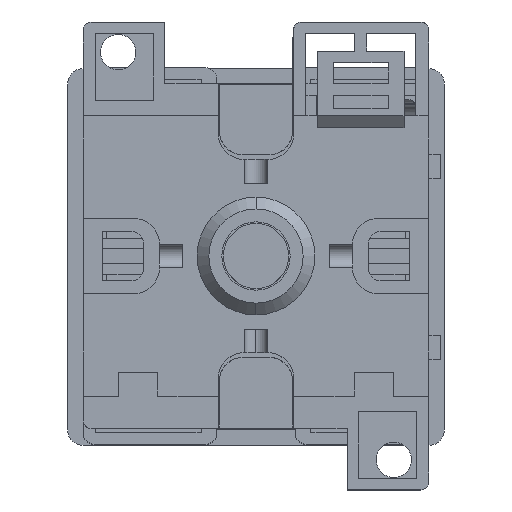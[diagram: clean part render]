
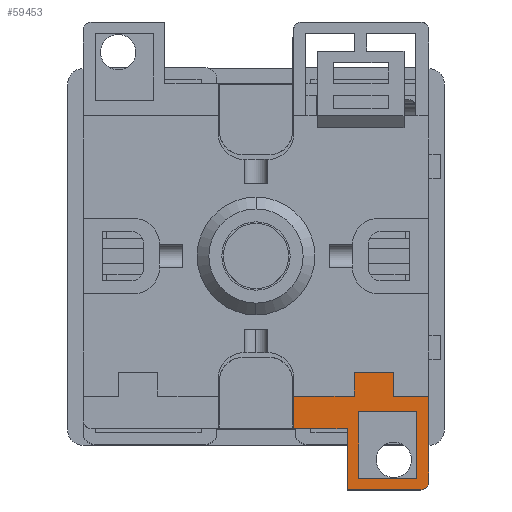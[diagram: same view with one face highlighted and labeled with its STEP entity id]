
A CAD part, top view. The second image highlights one B-rep face of the part: STEP entity #59453.
In plain terms, the highlighted planar face has unit normal (0, 0, 1).
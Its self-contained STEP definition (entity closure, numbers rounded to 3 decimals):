
#806 = ORIENTED_EDGE ( 'NONE', *, *, #135892, .F. ) ;
#2220 = VERTEX_POINT ( 'NONE', #165774 ) ;
#4497 = VERTEX_POINT ( 'NONE', #30205 ) ;
#4670 = CARTESIAN_POINT ( 'NONE',  ( -51.715, -22.961, -144.082 ) ) ;
#4997 = CARTESIAN_POINT ( 'NONE',  ( 6.361, -5.111, -144.082 ) ) ;
#5806 = EDGE_CURVE ( 'NONE', #58904, #31021, #43689, .T. ) ;
#7715 = ORIENTED_EDGE ( 'NONE', *, *, #78977, .F. ) ;
#8108 = DIRECTION ( 'NONE',  ( 0., -1., 0. ) ) ;
#8287 = DIRECTION ( 'NONE',  ( 1., 0., 0. ) ) ;
#11564 = EDGE_CURVE ( 'NONE', #75841, #72464, #12295, .T. ) ;
#12295 = LINE ( 'NONE', #21018, #115640 ) ;
#12948 = CARTESIAN_POINT ( 'NONE',  ( 17.961, -27.111, -144.082 ) ) ;
#13508 = PLANE ( 'NONE',  #119540 ) ;
#14140 = VECTOR ( 'NONE', #150903, 1000. ) ;
#18361 = VERTEX_POINT ( 'NONE', #73487 ) ;
#18905 = DIRECTION ( 'NONE',  ( 1., 0., 0. ) ) ;
#21018 = CARTESIAN_POINT ( 'NONE',  ( 19.461, -33.411, -144.082 ) ) ;
#21280 = CARTESIAN_POINT ( 'NONE',  ( 18.861, -19.961, -144.082 ) ) ;
#21626 = EDGE_CURVE ( 'NONE', #4497, #75841, #164432, .T. ) ;
#25039 = DIRECTION ( 'NONE',  ( 0., -1., 0. ) ) ;
#25403 = DIRECTION ( 'NONE',  ( 1., 0., 0. ) ) ;
#25995 = CARTESIAN_POINT ( 'NONE',  ( 23.861, -19.961, -144.082 ) ) ;
#26577 = VECTOR ( 'NONE', #131591, 1000. ) ;
#29276 = DIRECTION ( 'NONE',  ( 1., 0., 0. ) ) ;
#29708 = ORIENTED_EDGE ( 'NONE', *, *, #58573, .T. ) ;
#30205 = CARTESIAN_POINT ( 'NONE',  ( 26.861, -24.961, -144.082 ) ) ;
#30358 = CARTESIAN_POINT ( 'NONE',  ( 27.361, -34.911, -144.082 ) ) ;
#30824 = ORIENTED_EDGE ( 'NONE', *, *, #97776, .F. ) ;
#31021 = VERTEX_POINT ( 'NONE', #60147 ) ;
#32171 = VECTOR ( 'NONE', #90088, 1000. ) ;
#36940 = EDGE_CURVE ( 'NONE', #140231, #50520, #100815, .T. ) ;
#38028 = VERTEX_POINT ( 'NONE', #70919 ) ;
#38032 = LINE ( 'NONE', #161915, #128722 ) ;
#38182 = CIRCLE ( 'NONE', #62280, 1. ) ;
#38921 = LINE ( 'NONE', #129041, #55507 ) ;
#43413 = ORIENTED_EDGE ( 'NONE', *, *, #36940, .F. ) ;
#43689 = LINE ( 'NONE', #89843, #76788 ) ;
#44537 = DIRECTION ( 'NONE',  ( 0., 1., 0. ) ) ;
#46534 = DIRECTION ( 'NONE',  ( 0., -1., 0. ) ) ;
#48090 = LINE ( 'NONE', #4670, #114018 ) ;
#50131 = EDGE_CURVE ( 'NONE', #18361, #143493, #103141, .T. ) ;
#50520 = VERTEX_POINT ( 'NONE', #114619 ) ;
#52160 = ORIENTED_EDGE ( 'NONE', *, *, #158010, .T. ) ;
#54056 = VECTOR ( 'NONE', #154682, 1000. ) ;
#54259 = DIRECTION ( 'NONE',  ( 1., 0., 0. ) ) ;
#55507 = VECTOR ( 'NONE', #25403, 1000. ) ;
#55510 = VERTEX_POINT ( 'NONE', #12948 ) ;
#57863 = DIRECTION ( 'NONE',  ( 1., 0., 0. ) ) ;
#58573 = EDGE_CURVE ( 'NONE', #18361, #103340, #63022, .T. ) ;
#58887 = VECTOR ( 'NONE', #8108, 1000. ) ;
#58904 = VERTEX_POINT ( 'NONE', #30358 ) ;
#59453 = ADVANCED_FACE ( 'NONE', ( #158143, #125106 ), #13508, .F. ) ;
#60147 = CARTESIAN_POINT ( 'NONE',  ( 17.961, -34.911, -144.082 ) ) ;
#60315 = CARTESIAN_POINT ( 'NONE',  ( 28.361, -22.961, -144.082 ) ) ;
#60319 = CARTESIAN_POINT ( 'NONE',  ( 28.361, -34.911, -144.082 ) ) ;
#60422 = VERTEX_POINT ( 'NONE', #66580 ) ;
#62280 = AXIS2_PLACEMENT_3D ( 'NONE', #140085, #87208, #8287 ) ;
#63022 = LINE ( 'NONE', #21280, #58887 ) ;
#64728 = CARTESIAN_POINT ( 'NONE',  ( -15.639, -27.111, -144.082 ) ) ;
#66580 = CARTESIAN_POINT ( 'NONE',  ( 26.861, -33.411, -144.082 ) ) ;
#66588 = ORIENTED_EDGE ( 'NONE', *, *, #21626, .F. ) ;
#66959 = VECTOR ( 'NONE', #29276, 1000. ) ;
#67251 = LINE ( 'NONE', #64728, #32171 ) ;
#68000 = LINE ( 'NONE', #105266, #26577 ) ;
#68840 = EDGE_CURVE ( 'NONE', #38028, #2220, #146776, .T. ) ;
#68970 = LINE ( 'NONE', #119698, #66959 ) ;
#70919 = CARTESIAN_POINT ( 'NONE',  ( 11.161, -22.961, -144.082 ) ) ;
#72464 = VERTEX_POINT ( 'NONE', #128220 ) ;
#73487 = CARTESIAN_POINT ( 'NONE',  ( 18.861, -19.961, -144.082 ) ) ;
#74384 = DIRECTION ( 'NONE',  ( -1., 0., 0. ) ) ;
#75841 = VERTEX_POINT ( 'NONE', #159463 ) ;
#76788 = VECTOR ( 'NONE', #74384, 1000. ) ;
#78977 = EDGE_CURVE ( 'NONE', #38028, #103340, #38921, .T. ) ;
#80004 = EDGE_LOOP ( 'NONE', ( #160879, #52160, #43413, #160306, #806, #141297, #29708, #7715, #81289, #123568, #145978 ) ) ;
#81289 = ORIENTED_EDGE ( 'NONE', *, *, #68840, .T. ) ;
#84941 = ORIENTED_EDGE ( 'NONE', *, *, #11564, .F. ) ;
#87208 = DIRECTION ( 'NONE',  ( 0., 0., 1. ) ) ;
#89843 = CARTESIAN_POINT ( 'NONE',  ( 28.361, -34.911, -144.082 ) ) ;
#90088 = DIRECTION ( 'NONE',  ( -1., 0., 0. ) ) ;
#92510 = EDGE_CURVE ( 'NONE', #31021, #55510, #94699, .T. ) ;
#94699 = LINE ( 'NONE', #122687, #14140 ) ;
#96041 = DIRECTION ( 'NONE',  ( -1., 0., 0. ) ) ;
#97688 = DIRECTION ( 'NONE',  ( 0., 0., -1. ) ) ;
#97776 = EDGE_CURVE ( 'NONE', #60422, #4497, #38032, .T. ) ;
#100815 = LINE ( 'NONE', #60319, #119203 ) ;
#103141 = LINE ( 'NONE', #25995, #121593 ) ;
#103340 = VERTEX_POINT ( 'NONE', #131782 ) ;
#105266 = CARTESIAN_POINT ( 'NONE',  ( 23.861, -19.961, -144.082 ) ) ;
#106954 = VECTOR ( 'NONE', #96041, 1000. ) ;
#114018 = VECTOR ( 'NONE', #18905, 1000. ) ;
#114619 = CARTESIAN_POINT ( 'NONE',  ( 28.361, -33.911, -144.082 ) ) ;
#115640 = VECTOR ( 'NONE', #25039, 1000. ) ;
#116712 = CARTESIAN_POINT ( 'NONE',  ( 23.861, -22.961, -144.082 ) ) ;
#118128 = CARTESIAN_POINT ( 'NONE',  ( 23.861, -19.961, -144.082 ) ) ;
#118301 = EDGE_CURVE ( 'NONE', #55510, #2220, #67251, .T. ) ;
#119203 = VECTOR ( 'NONE', #46534, 1000. ) ;
#119540 = AXIS2_PLACEMENT_3D ( 'NONE', #4997, #97688, #57863 ) ;
#119698 = CARTESIAN_POINT ( 'NONE',  ( 26.861, -33.411, -144.082 ) ) ;
#121593 = VECTOR ( 'NONE', #54259, 1000. ) ;
#122687 = CARTESIAN_POINT ( 'NONE',  ( 17.961, -27.111, -144.082 ) ) ;
#123560 = EDGE_LOOP ( 'NONE', ( #66588, #30824, #137202, #84941 ) ) ;
#123568 = ORIENTED_EDGE ( 'NONE', *, *, #118301, .F. ) ;
#125083 = EDGE_CURVE ( 'NONE', #138722, #140231, #48090, .T. ) ;
#125106 = FACE_OUTER_BOUND ( 'NONE', #80004, .T. ) ;
#128174 = CARTESIAN_POINT ( 'NONE',  ( 11.161, 24.689, -144.082 ) ) ;
#128220 = CARTESIAN_POINT ( 'NONE',  ( 19.461, -33.411, -144.082 ) ) ;
#128722 = VECTOR ( 'NONE', #44537, 1000. ) ;
#129041 = CARTESIAN_POINT ( 'NONE',  ( -51.715, -22.961, -144.082 ) ) ;
#131591 = DIRECTION ( 'NONE',  ( 0., -1., 0. ) ) ;
#131782 = CARTESIAN_POINT ( 'NONE',  ( 18.861, -22.961, -144.082 ) ) ;
#134440 = CARTESIAN_POINT ( 'NONE',  ( 26.861, -24.961, -144.082 ) ) ;
#135892 = EDGE_CURVE ( 'NONE', #143493, #138722, #68000, .T. ) ;
#137202 = ORIENTED_EDGE ( 'NONE', *, *, #169577, .F. ) ;
#138722 = VERTEX_POINT ( 'NONE', #116712 ) ;
#140085 = CARTESIAN_POINT ( 'NONE',  ( 27.361, -33.911, -144.082 ) ) ;
#140231 = VERTEX_POINT ( 'NONE', #60315 ) ;
#141297 = ORIENTED_EDGE ( 'NONE', *, *, #50131, .F. ) ;
#143493 = VERTEX_POINT ( 'NONE', #118128 ) ;
#145978 = ORIENTED_EDGE ( 'NONE', *, *, #92510, .F. ) ;
#146776 = LINE ( 'NONE', #128174, #54056 ) ;
#150903 = DIRECTION ( 'NONE',  ( 0., 1., 0. ) ) ;
#154682 = DIRECTION ( 'NONE',  ( 0., -1., 0. ) ) ;
#158010 = EDGE_CURVE ( 'NONE', #58904, #50520, #38182, .T. ) ;
#158143 = FACE_BOUND ( 'NONE', #123560, .T. ) ;
#159463 = CARTESIAN_POINT ( 'NONE',  ( 19.461, -24.961, -144.082 ) ) ;
#160306 = ORIENTED_EDGE ( 'NONE', *, *, #125083, .F. ) ;
#160879 = ORIENTED_EDGE ( 'NONE', *, *, #5806, .F. ) ;
#161915 = CARTESIAN_POINT ( 'NONE',  ( 26.861, -33.411, -144.082 ) ) ;
#164432 = LINE ( 'NONE', #134440, #106954 ) ;
#165774 = CARTESIAN_POINT ( 'NONE',  ( 11.161, -27.111, -144.082 ) ) ;
#169577 = EDGE_CURVE ( 'NONE', #72464, #60422, #68970, .T. ) ;
